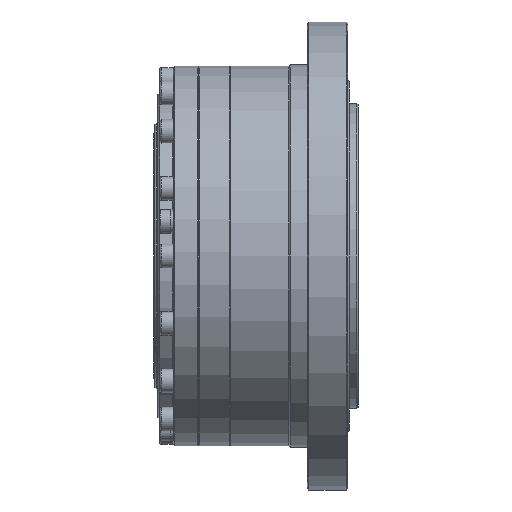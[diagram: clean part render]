
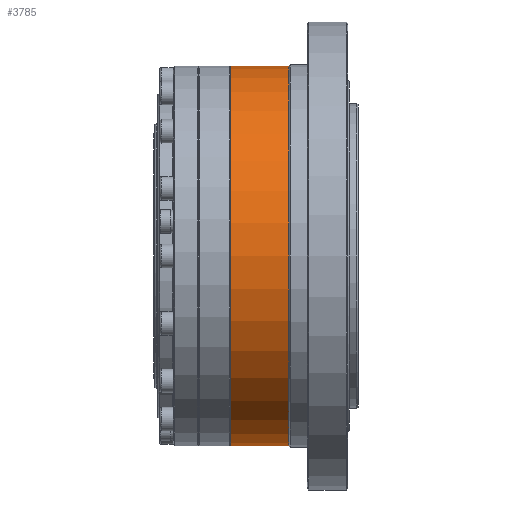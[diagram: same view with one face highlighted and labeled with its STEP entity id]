
A CAD part, front view. The second image highlights one B-rep face of the part: STEP entity #3785.
In plain terms, the highlighted cylindrical face has radius 56 mm (diameter 112 mm), a full revolution.
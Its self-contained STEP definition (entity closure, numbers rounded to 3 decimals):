
#3785=ADVANCED_FACE('',(#5490,#5491),#5048,.T.);
#5048=CYLINDRICAL_SURFACE('',#19123,56.);
#5490=FACE_BOUND('',#7495,.T.);
#5491=FACE_BOUND('',#7496,.T.);
#7495=EDGE_LOOP('',(#10393));
#7496=EDGE_LOOP('',(#10394));
#10393=ORIENTED_EDGE('',*,*,#15564,.T.);
#10394=ORIENTED_EDGE('',*,*,#15563,.F.);
#13870=VERTEX_POINT('',#30164);
#13871=VERTEX_POINT('',#30167);
#15563=EDGE_CURVE('',#13870,#13870,#17424,.T.);
#15564=EDGE_CURVE('',#13871,#13871,#17425,.T.);
#17424=CIRCLE('',#19120,56.);
#17425=CIRCLE('',#19122,56.);
#19120=AXIS2_PLACEMENT_3D('',#30163,#22163,#22164);
#19122=AXIS2_PLACEMENT_3D('',#30166,#22167,#22168);
#19123=AXIS2_PLACEMENT_3D('',#30168,#22169,#22170);
#22163=DIRECTION('',(-1.,0.,0.));
#22164=DIRECTION('',(0.,0.,1.));
#22167=DIRECTION('',(-1.,0.,0.));
#22168=DIRECTION('',(0.,0.,1.));
#22169=DIRECTION('',(-1.,0.,0.));
#22170=DIRECTION('',(0.,0.,1.));
#30163=CARTESIAN_POINT('',(-34.5,0.,0.));
#30164=CARTESIAN_POINT('',(-34.5,0.,56.));
#30166=CARTESIAN_POINT('',(-17.5,0.,0.));
#30167=CARTESIAN_POINT('',(-17.5,0.,56.));
#30168=CARTESIAN_POINT('',(-37.,0.,0.));
